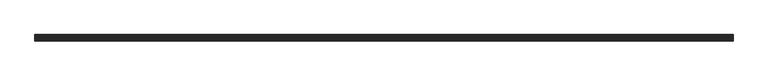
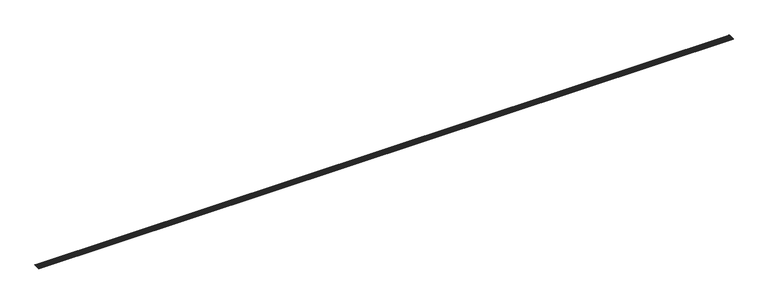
"""IFC4 building model written with IfcOpenShell, lengths in millimetres: slab geometry, ROSA GRES_003 : Pieza 003_Aqua_Marino_Anti-Slip."""

import ifcopenshell
import ifcopenshell.guid

model = None  # the IFC model being written
_history = None  # IfcOwnerHistory: only IFC2X3 demands one
_inside = {}  # id of a spatial element -> (the spatial element, [elements in it])
_under = {}  # id of a project, library or spatial element -> (it, [spatial elements below it])
_declared = {}  # id of a project -> (the project, [libraries it declares])
_typed = {}  # id of a type object -> (the type object, [elements of that type])
_made_of = {}  # id of a material, layer set ... -> (it, [elements and type objects made of it])


def new_model(schema):
    """Start an empty IFC model of exactly this schema.

    Asked for "IFC4X3", IfcOpenShell would pick the latest addendum, in which some entities
    have other attributes; the version numbers below select the first issue.
    IFC2X3 requires an IfcOwnerHistory on every rooted entity: one is made here for all.
    """
    global model, _history
    if schema == "IFC4X3":
        model = ifcopenshell.file(schema_version=(4, 3, 0, 0))
    else:
        model = ifcopenshell.file(schema=schema)
    _inside.clear()
    _under.clear()
    _declared.clear()
    _typed.clear()
    _made_of.clear()
    _history = None
    if model.schema == "IFC2X3":
        org = make("IfcOrganization", Name="unknown")
        user = make(
            "IfcPersonAndOrganization",
            ThePerson=make("IfcPerson", FamilyName="unknown"),
            TheOrganization=org,
        )
        app = make(
            "IfcApplication",
            ApplicationDeveloper=org,
            Version="unknown",
            ApplicationFullName="unknown",
            ApplicationIdentifier="unknown",
        )
        _history = make(
            "IfcOwnerHistory",
            OwningUser=user,
            OwningApplication=app,
            ChangeAction="ADDED",
            CreationDate=0,
        )
    return model


def make(cls, **values):
    """One entity of the class cls with the attributes given. An attribute that is None is left unset."""
    return model.create_entity(
        cls, **{name: value for name, value in values.items() if value is not None}
    )


def rooted(cls, **values):
    """An entity with a GlobalId (a new one), such as an element, a storey or a relation."""
    return make(cls, GlobalId=ifcopenshell.guid.new(), OwnerHistory=_history, **values)


def si_unit(unit_type, name, prefix=None):
    """IfcSIUnit, for example si_unit("LENGTHUNIT", "METRE", prefix="MILLI")."""
    return make("IfcSIUnit", UnitType=unit_type, Prefix=prefix, Name=name)


def assignment(units):
    """IfcUnitAssignment: the units of a project."""
    return None if units is None else make("IfcUnitAssignment", Units=units)


def point(xyz):
    """IfcCartesianPoint."""
    return None if xyz is None else make("IfcCartesianPoint", Coordinates=xyz)


def direction(xyz):
    """IfcDirection."""
    return None if xyz is None else make("IfcDirection", DirectionRatios=xyz)


def frame(location, z_axis=None, x_axis=None):
    """IfcAxis2Placement3D, a coordinate frame: its origin and axes. An axis left out is left unset."""
    return make(
        "IfcAxis2Placement3D",
        Location=point(location),
        Axis=direction(z_axis),
        RefDirection=direction(x_axis),
    )


def frame_2d(location, x_axis=None):
    """IfcAxis2Placement2D, a coordinate frame in the plane: its origin and x axis."""
    return make(
        "IfcAxis2Placement2D", Location=point(location), RefDirection=direction(x_axis)
    )


def origin():
    """The frame at (0, 0, 0) with its axes left unset."""
    return frame((0.0, 0.0, 0.0))


def place(relative_to, where):
    """IfcLocalPlacement: puts the frame where relative to a parent placement (None: the world)."""
    return make(
        "IfcLocalPlacement", PlacementRelTo=relative_to, RelativePlacement=where
    )


def context(
    kind, dimensions, precision=None, world=None, true_north=None, identifier=None
):
    """IfcGeometricRepresentationContext, for example the 3D "Model" context."""
    return make(
        "IfcGeometricRepresentationContext",
        ContextIdentifier=identifier,
        ContextType=kind,
        CoordinateSpaceDimension=dimensions,
        Precision=precision,
        WorldCoordinateSystem=world,
        TrueNorth=true_north,
    )


def project(units=None, contexts=None):
    """IfcProject with its units and contexts."""
    return rooted(
        "IfcProject",
        Name="project",
        RepresentationContexts=contexts,
        UnitsInContext=assignment(units),
    )


def spatial(cls, under=None, at=None, **own):
    """A site, building, storey or space (cls), placed at a placement, below another one or the project."""
    s = rooted(cls, ObjectPlacement=at, **own)
    if under is not None:
        _under.setdefault(under.id(), (under, []))[1].append(s)
    return s


def polyline(points):
    """IfcPolyline through the points."""
    return make("IfcPolyline", Points=[point(p) for p in points])


def circle_curve(where, radius):
    """IfcCircle in the frame where."""
    return make("IfcCircle", Position=where, Radius=radius)


def trimmed(basis, trim1, trim2, sense, master):
    """IfcTrimmedCurve: the piece of a basis curve between two trims."""
    return make(
        "IfcTrimmedCurve",
        BasisCurve=basis,
        Trim1=trim1,
        Trim2=trim2,
        SenseAgreement=sense,
        MasterRepresentation=master,
    )


def segment(curve, same_sense, transition):
    """IfcCompositeCurveSegment."""
    return make(
        "IfcCompositeCurveSegment",
        Transition=transition,
        SameSense=same_sense,
        ParentCurve=curve,
    )


def composite_curve(segments, self_intersect=None):
    """IfcCompositeCurve: segments joined end to end."""
    return make("IfcCompositeCurve", Segments=segments, SelfIntersect=self_intersect)


def outline(outer, holes=None, kind="AREA"):
    """IfcArbitraryClosedProfileDef: a profile drawn as a closed curve; with holes, ...WithVoids."""
    if holes is None:
        return make("IfcArbitraryClosedProfileDef", ProfileType=kind, OuterCurve=outer)
    return make(
        "IfcArbitraryProfileDefWithVoids",
        ProfileType=kind,
        OuterCurve=outer,
        InnerCurves=holes,
    )


def extrude(swept, where, along, depth):
    """IfcExtrudedAreaSolid: the profile swept, set in the frame where, extruded along a direction by depth."""
    return make(
        "IfcExtrudedAreaSolid",
        SweptArea=swept,
        Position=where,
        ExtrudedDirection=direction(along),
        Depth=depth,
    )


def shape(context_of_items, identifier, shape_type, items):
    """IfcShapeRepresentation: the items that make up one representation, for example the "Body"."""
    return make(
        "IfcShapeRepresentation",
        ContextOfItems=context_of_items,
        RepresentationIdentifier=identifier,
        RepresentationType=shape_type,
        Items=items,
    )


def source(mapping_origin, context_of_items, identifier, shape_type, items):
    """IfcRepresentationMap: a shape defined once, which mapped items show again and again."""
    return make(
        "IfcRepresentationMap",
        MappingOrigin=mapping_origin,
        MappedRepresentation=shape(context_of_items, identifier, shape_type, items),
    )


def transform(
    local_origin,
    x_axis=None,
    y_axis=None,
    z_axis=None,
    scale=None,
    scale2=None,
    scale3=None,
    uniform=True,
):
    """IfcCartesianTransformationOperator3D, or its non-uniform kind. x_axis, y_axis, z_axis: its Axis1, 2, 3."""
    if uniform:
        return make(
            "IfcCartesianTransformationOperator3D",
            Axis1=direction(x_axis),
            Axis2=direction(y_axis),
            LocalOrigin=point(local_origin),
            Scale=scale,
            Axis3=direction(z_axis),
        )
    return make(
        "IfcCartesianTransformationOperator3DnonUniform",
        Axis1=direction(x_axis),
        Axis2=direction(y_axis),
        LocalOrigin=point(local_origin),
        Scale=scale,
        Axis3=direction(z_axis),
        Scale2=scale2,
        Scale3=scale3,
    )


def mapped(mapping_source, mapping_target):
    """IfcMappedItem: shows the shape of a source again, moved by a transform."""
    return make(
        "IfcMappedItem", MappingSource=mapping_source, MappingTarget=mapping_target
    )


def made_of(thing, what):
    """Note that an element or type object is made of a material, layer set ...; save() writes the relation."""
    if what is not None:
        _made_of.setdefault(what.id(), (what, []))[1].append(thing)
    return thing


def element(
    cls,
    number,
    at=None,
    inside=None,
    cuts=None,
    type_object=None,
    material=None,
    context=None,
    identifier="Body",
    shape_type=None,
    held_by="IfcProductDefinitionShape",
    body=None,
    shapes=None,
    **own,
):
    """One element of the class cls, such as IfcWall. Its Tag is "e" and its number.

    at: its placement. inside: the storey or other place that contains it. cuts: it is an
    opening in that element (IfcRelVoidsElement). A single representation is given by context,
    identifier, shape_type and body (its items); several are given by shapes. held_by: the class
    of the entity that holds the representations. save() writes the other relations.
    """
    e = rooted(cls, Tag="e%d" % number, ObjectPlacement=at, **own)
    if body is not None:
        shapes = [shape(context, identifier, shape_type, body)]
    if shapes is not None:
        e.Representation = make(held_by, Representations=shapes)
    if inside is not None:
        _inside.setdefault(inside.id(), (inside, []))[1].append(e)
    if cuts is not None:
        rooted(
            "IfcRelVoidsElement", RelatingBuildingElement=cuts, RelatedOpeningElement=e
        )
    if type_object is not None:
        _typed.setdefault(type_object.id(), (type_object, []))[1].append(e)
    return made_of(e, material)


def aggregate(whole, parts):
    """IfcRelAggregates: a whole, such as a stair, and the parts it consists of."""
    return rooted("IfcRelAggregates", RelatingObject=whole, RelatedObjects=parts)


def save(model, path):
    """Write the relations noted so far, then the file.

    IfcRelAggregates (storeys below a building ...), IfcRelContainedInSpatialStructure (elements
    in a storey), IfcRelDefinesByType, IfcRelAssociatesMaterial and IfcRelDeclares: one each for
    every whole, place, type object, material and project.
    """
    for whole, parts in _under.values():
        aggregate(whole, parts)
    for where, things in _inside.values():
        rooted(
            "IfcRelContainedInSpatialStructure",
            RelatedElements=things,
            RelatingStructure=where,
        )
    for kind, things in _typed.values():
        rooted("IfcRelDefinesByType", RelatedObjects=things, RelatingType=kind)
    for what, things in _made_of.values():
        rooted("IfcRelAssociatesMaterial", RelatedObjects=things, RelatingMaterial=what)
    for by, libraries in _declared.values():
        rooted("IfcRelDeclares", RelatingContext=by, RelatedDefinitions=libraries)
    model.write(path)


def slab_4c277c01(model_context):
    return source(origin(), model_context, "Body", "SweptSolid", [
        extrude(outline(composite_curve([segment(trimmed(circle_curve(frame_2d((-7.6419163, 1.7573601)), 7.7398374), [point((-7.6419163, 9.4971975))], [point((0.0, 2.9846331))], False, "CARTESIAN"), True, "CONTINUOUS"), segment(trimmed(circle_curve(frame_2d((-1.9104791, 2.6778148)), 1.9349594), [point((0.0, 2.9846331))], [point((-0.5422562, 1.309592))], False, "CARTESIAN"), True, "CONTINUOUS"), segment(polyline([(-0.5422562, 1.309592), (-1.8518481, 0.0), (-118.9168888, 0.0), (-118.9168888, 8.0603545)]), True, "CONTINUOUS"), segment(trimmed(circle_curve(frame_2d((-118.9168888, 13.6516438)), 5.5912893), [point((-118.9168888, 8.0603545))], [point((-114.6668888, 10.0184612))], True, "CARTESIAN"), True, "CONTINUOUS"), segment(polyline([(-114.6668888, 10.0184612), (-114.6668888, 4.0921512), (-13.1748183, 4.0921512), (-13.1748183, 9.4971975), (-7.6419163, 9.4971975)]), True, "CONTINUOUS")], self_intersect=False)), frame((0.0, 0.0, 0.0), z_axis=(1.0, 0.0, 0.0), x_axis=(0.0, 1.0, 0.0)), (0.0, 0.0, 1.0), 12665.7005795),
        extrude(outline(composite_curve([segment(polyline([(-106.1668888, 10.0184612), (-106.1668888, 4.0921512), (-114.6668888, 4.0921512), (-114.6668888, 10.0184612)]), True, "CONTINUOUS"), segment(trimmed(circle_curve(frame_2d((-110.4168888, 13.6516438)), 5.5912893), [point((-114.6668888, 10.0184612))], [point((-106.1668888, 10.0184612))], True, "CARTESIAN"), True, "CONTINUOUS")], self_intersect=False)), frame((0.0, 0.0, 0.0), z_axis=(1.0, 0.0, 0.0), x_axis=(0.0, 1.0, 0.0)), (0.0, 0.0, 1.0), 12665.7005795),
        extrude(outline(polyline([(8.5, 0.0), (8.5, -12665.7005795), (-8.5, -12665.7005795), (-8.5, 0.0), (8.5, 0.0)])), frame((12665.7005795, -80.6668888, 4.0921512), z_axis=(0.0, -7.603645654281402e-12, 1.0), x_axis=(0.0, -1.0, -7.603645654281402e-12)), (0.0, 0.0, 1.0), 2.92631),
        extrude(outline(polyline([(8.5, 0.0), (8.5, -12665.7005795), (-8.5, -12665.7005795), (-8.5, 0.0), (8.5, 0.0)])), frame((12665.7005795, -46.6668888, 4.0921512), z_axis=(0.0, -7.603614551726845e-12, 1.0), x_axis=(0.0, -1.0, -7.603614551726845e-12)), (0.0, 0.0, 1.0), 2.92631),
        extrude(outline(composite_curve([segment(polyline([(-13.1748183, 9.4971975), (-13.1748183, 4.0921512), (-21.1668888, 4.0921512), (-21.1668888, 10.0184612)]), True, "CONTINUOUS"), segment(trimmed(circle_curve(frame_2d((-16.9168888, 13.6516438)), 5.5912893), [point((-21.1668888, 10.0184612))], [point((-13.1748183, 9.4971975))], True, "CARTESIAN"), True, "CONTINUOUS")], self_intersect=False)), frame((0.0, 0.0, 0.0), z_axis=(1.0, 0.0, 0.0), x_axis=(0.0, 1.0, 0.0)), (0.0, 0.0, 1.0), 12665.7005795),
        extrude(outline(composite_curve([segment(polyline([(-21.1668888, 10.0221512), (-21.1668888, 4.0921512), (-38.1668888, 4.0921512), (-38.1668888, 7.0184612), (-55.1668888, 7.0184612), (-55.1668888, 4.0921512), (-72.1668888, 4.0921512), (-72.1668888, 7.0184612), (-89.1668888, 7.0184612), (-89.1668888, 4.0921512), (-106.1668888, 4.0921512), (-106.1668888, 10.0221512)]), True, "CONTINUOUS"), segment(trimmed(circle_curve(frame_2d((-101.9168888, 13.6553338)), 5.5912893), [point((-106.1668888, 10.0221512))], [point((-97.6668888, 10.0221512))], True, "CARTESIAN"), True, "CONTINUOUS"), segment(trimmed(circle_curve(frame_2d((-93.4168888, 13.6553338)), 5.5912893), [point((-97.6668888, 10.0221512))], [point((-89.1668888, 10.0221512))], True, "CARTESIAN"), True, "CONTINUOUS"), segment(trimmed(circle_curve(frame_2d((-84.9168888, 13.6553338)), 5.5912893), [point((-89.1668888, 10.0221512))], [point((-80.6668888, 10.0221512))], True, "CARTESIAN"), True, "CONTINUOUS"), segment(trimmed(circle_curve(frame_2d((-76.4168888, 13.6553338)), 5.5912893), [point((-80.6668888, 10.0221512))], [point((-72.1668888, 10.0221512))], True, "CARTESIAN"), True, "CONTINUOUS"), segment(trimmed(circle_curve(frame_2d((-67.9168888, 13.6553338)), 5.5912893), [point((-72.1668888, 10.0221512))], [point((-63.6668888, 10.0221512))], True, "CARTESIAN"), True, "CONTINUOUS"), segment(trimmed(circle_curve(frame_2d((-59.4168888, 13.6553338)), 5.5912893), [point((-63.6668888, 10.0221512))], [point((-55.1668888, 10.0221512))], True, "CARTESIAN"), True, "CONTINUOUS"), segment(trimmed(circle_curve(frame_2d((-50.9168888, 13.6553338)), 5.5912893), [point((-55.1668888, 10.0221512))], [point((-46.6668888, 10.0221512))], True, "CARTESIAN"), True, "CONTINUOUS"), segment(trimmed(circle_curve(frame_2d((-42.4168888, 13.6553338)), 5.5912893), [point((-46.6668888, 10.0221512))], [point((-38.1668888, 10.0221512))], True, "CARTESIAN"), True, "CONTINUOUS"), segment(trimmed(circle_curve(frame_2d((-33.9168888, 13.6553338)), 5.5912893), [point((-38.1668888, 10.0221512))], [point((-29.6668888, 10.0221512))], True, "CARTESIAN"), True, "CONTINUOUS"), segment(trimmed(circle_curve(frame_2d((-25.4168888, 13.6553338)), 5.5912893), [point((-29.6668888, 10.0221512))], [point((-21.1668888, 10.0221512))], True, "CARTESIAN"), True, "CONTINUOUS")], self_intersect=False)), frame((0.0, 0.0, 0.0), z_axis=(1.0, 0.0, 0.0), x_axis=(0.0, 1.0, 0.0)), (0.0, 0.0, 1.0), 12665.7005795),
    ])


if __name__ == "__main__":
    model = new_model("IFC4")
    model_context = context("Model", 3, world=origin())
    ifc_project = project(units=[si_unit("LENGTHUNIT", "METRE", prefix="MILLI")], contexts=[model_context])
    site = spatial("IfcSite", under=ifc_project)
    building = spatial("IfcBuilding", under=site)
    placement = place(None, origin())
    slab_shape = slab_4c277c01(model_context)
    element("IfcSlab", 1, ObjectType="ROSA GRES_003 : Pieza 003_Aqua_Marino_Anti-Slip", at=placement, inside=building, context=model_context, shape_type="MappedRepresentation", body=[
        mapped(slab_shape, transform((0.0, 0.0, 0.0), x_axis=(1.0, 0.0, 0.0), y_axis=(0.0, 1.0, 0.0), z_axis=(0.0, 0.0, 1.0))),
    ])
    save(model, "model.ifc")
